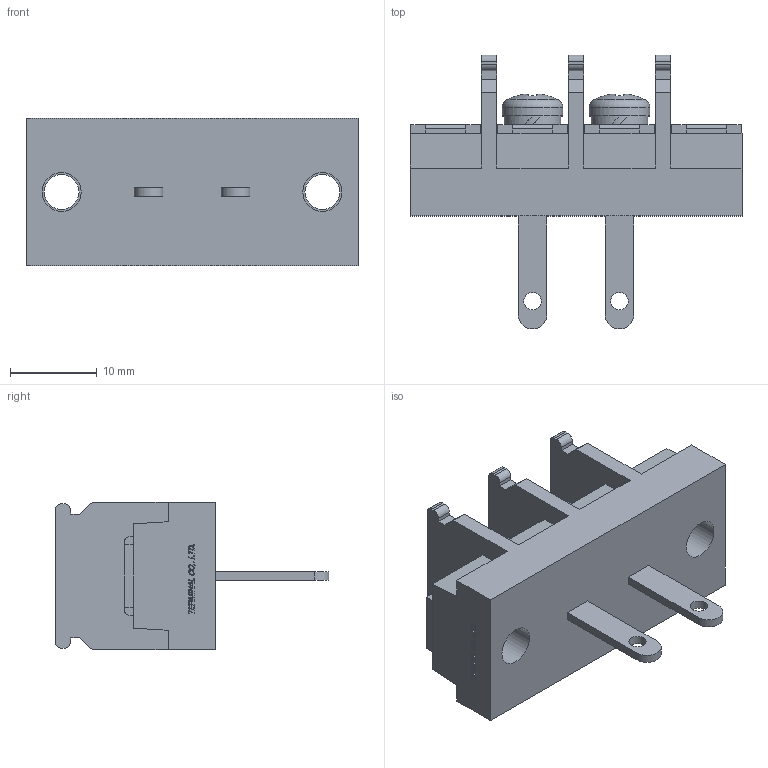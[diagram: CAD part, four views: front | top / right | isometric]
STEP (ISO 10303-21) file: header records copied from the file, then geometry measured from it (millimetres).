
FILE_DESCRIPTION(/* description */ ('Alibre Inc.'),/* implementation_level */ '2;1');
FILE_NAME(/* name */ 'export0',/* time_stamp */ '2015-10-14T18:41:02+09:00',/* author */ (''),/* organization */ (''),/* preprocessor_version */ 'ST-DEVELOPER v14',/* originating_system */ 'Alibre',/* authorisation */ '');
FILE_SCHEMA (('CONFIG_CONTROL_DESIGN'));
Length unit declared in the file: centimetre
Products named in the file (1): ID_1
Bounding box: 38.2 x 31.5 x 17 mm (x, y, z)
Volume: 6546.7 mm3; surface area: 4240 mm2
Topology: 1 solids, 17 shells, 580 faces, 1544 edges, 1028 vertices
Faces by surface type: plane 428, bspline 104, cylinder 34, cone 8, torus 4, sphere 2
Full cylindrical faces by diameter (mm): 2 x2, 4 x4, 4.5 x2, 6.5 x2, 7 x2
Entity records: 17458 total; most frequent: CARTESIAN_POINT 4107, ORIENTED_EDGE 3044, DIRECTION 1934, EDGE_CURVE 1522, VECTOR 1172, LINE 1172, VERTEX_POINT 1020, EDGE_LOOP 644
